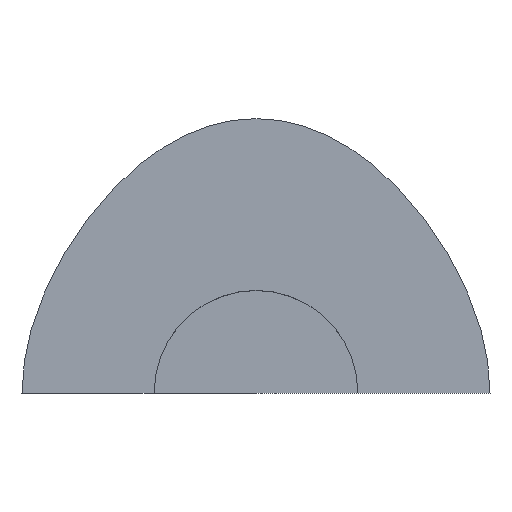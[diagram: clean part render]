
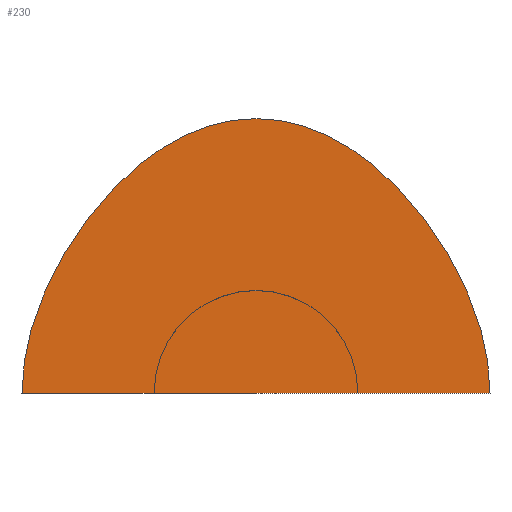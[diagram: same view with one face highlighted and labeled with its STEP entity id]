
A CAD part, top view. The second image highlights one B-rep face of the part: STEP entity #230.
In plain terms, the highlighted planar face has unit normal (0, 0, 1).
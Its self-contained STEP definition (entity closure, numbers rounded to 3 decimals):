
#193=CARTESIAN_POINT('Axis2P3D Location',(0.,54.828,0.)) ;
#198=CARTESIAN_POINT('Line Origine',(0.,0.,0.)) ;
#202=CARTESIAN_POINT('Vertex',(-115.,0.,0.)) ;
#204=CARTESIAN_POINT('Vertex',(115.,0.,0.)) ;
#208=CARTESIAN_POINT('Control Point',(0.,135.,0.)) ;
#209=CARTESIAN_POINT('Control Point',(35.468,135.,0.)) ;
#210=CARTESIAN_POINT('Control Point',(68.652,114.551,0.)) ;
#211=CARTESIAN_POINT('Control Point',(99.551,73.652,0.)) ;
#212=CARTESIAN_POINT('Control Point',(115.,35.468,0.)) ;
#213=CARTESIAN_POINT('Control Point',(115.,0.,0.)) ;
#214=CARTESIAN_POINT('Vertex',(0.,135.,0.)) ;
#218=CARTESIAN_POINT('Control Point',(0.,135.,0.)) ;
#219=CARTESIAN_POINT('Control Point',(-35.468,135.,0.)) ;
#220=CARTESIAN_POINT('Control Point',(-68.652,114.551,0.)) ;
#221=CARTESIAN_POINT('Control Point',(-99.551,73.652,0.)) ;
#222=CARTESIAN_POINT('Control Point',(-115.,35.468,0.)) ;
#223=CARTESIAN_POINT('Control Point',(-115.,0.,0.)) ;
#194=DIRECTION('Axis2P3D Direction',(0.,0.,1.)) ;
#195=DIRECTION('Axis2P3D XDirection',(1.,0.,0.)) ;
#199=DIRECTION('Vector Direction',(1.,0.,0.)) ;
#196=AXIS2_PLACEMENT_3D('Plane Axis2P3D',#193,#194,#195) ;
#226=ORIENTED_EDGE('',*,*,#206,.T.) ;
#227=ORIENTED_EDGE('',*,*,#216,.T.) ;
#228=ORIENTED_EDGE('',*,*,#224,.T.) ;
#200=VECTOR('Line Direction',#199,1.) ;
#230=ADVANCED_FACE('Fill.1',(#229),#197,.T.) ;
#207=B_SPLINE_CURVE_WITH_KNOTS('',5,(#208,#209,#210,#211,#212,#213),.UNSPECIFIED.,.F.,.U.,(6,6),(0.,177.341),.UNSPECIFIED.) ;
#217=B_SPLINE_CURVE_WITH_KNOTS('',5,(#218,#219,#220,#221,#222,#223),.UNSPECIFIED.,.F.,.U.,(6,6),(0.,177.341),.UNSPECIFIED.) ;
#206=EDGE_CURVE('',#203,#205,#201,.T.) ;
#216=EDGE_CURVE('',#205,#215,#207,.F.) ;
#224=EDGE_CURVE('',#215,#203,#217,.T.) ;
#225=EDGE_LOOP('',(#226,#227,#228)) ;
#229=FACE_OUTER_BOUND('',#225,.T.) ;
#201=LINE('Line',#198,#200) ;
#197=PLANE('',#196) ;
#203=VERTEX_POINT('',#202) ;
#205=VERTEX_POINT('',#204) ;
#215=VERTEX_POINT('',#214) ;
